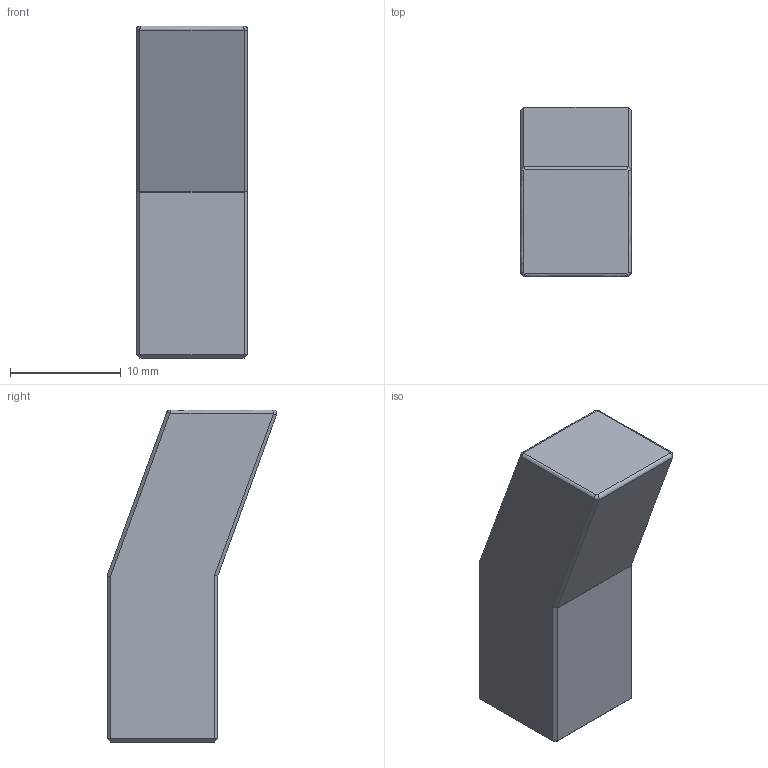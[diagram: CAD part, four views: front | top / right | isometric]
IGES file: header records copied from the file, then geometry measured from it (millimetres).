
Global section: file name: E:\UnigraphicsGraphicData\MISUMI_MOLD-PARTS\NX\3d_ance10_b10_l30_k20_00918_r00.igs; native system: NX V5.0; preprocessor: UGS NX IGES V5.0; author: MISUMI; date: 20101115.182445; units: millimetre
Bounding box: 10 x 15.33 x 30 mm (x, y, z)
Surface area: 1628.3 mm2 (no closed solid volume)
Topology: 0 solids, 0 shells, 37 faces, 207 edges, 206 vertices
Faces by surface type: bspline 37
